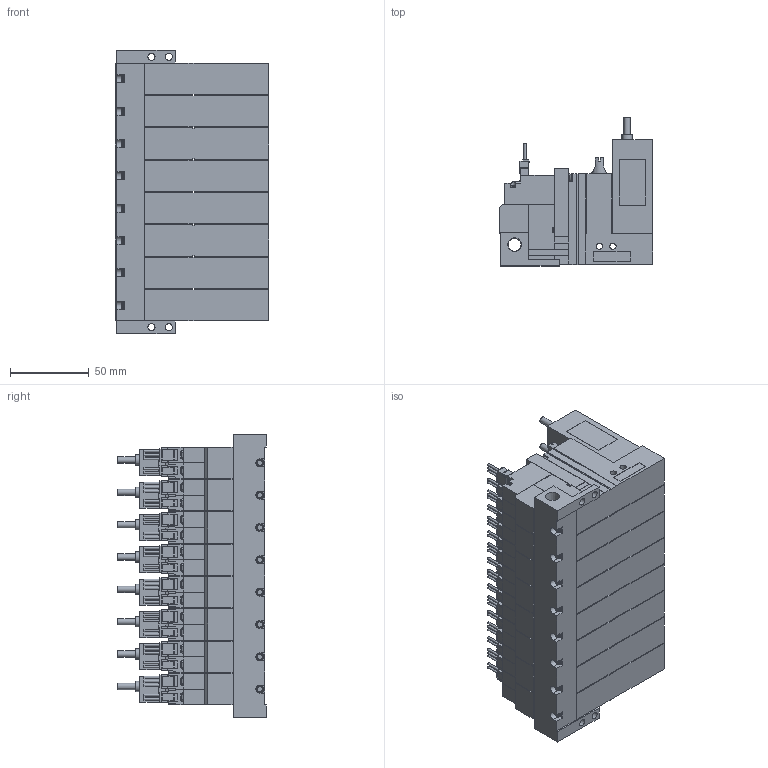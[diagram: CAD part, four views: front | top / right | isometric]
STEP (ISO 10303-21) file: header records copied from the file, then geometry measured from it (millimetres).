
FILE_DESCRIPTION(('STEP AP203'),'1');
FILE_NAME('VG_VGPLC5WLR808.stp','2025-02-25T05:25:42',(' '),(' '),'Spatial InterOp 3D',' ',' ');
FILE_SCHEMA(('CONFIG_CONTROL_DESIGN'));
Length unit declared in the file: millimetre
Products named in the file (5): BMC22M※※※※VG_VGPLC5WLR808; Solenoid valve W; Pressure sensor VGLC; Unit LC; Base MR80R
Assembly tree (25 placements, depth 2):
  BMC22M※※※※VG_VGPLC5WLR808
    Solenoid valve W  x8
    Pressure sensor VGLC  x8
    Unit LC  x8
    Base MR80R
Bounding box: 97.6 x 94 x 179.5 mm (x, y, z)
Volume: 900073.8 mm3; surface area: 230470.1 mm2
Topology: 25 solids, 25 shells, 3189 faces, 8531 edges, 5624 vertices
Faces by surface type: plane 2702, cylinder 389, cone 58, torus 40
Full cylindrical faces by diameter (mm): 1.4 x40, 2.5 x24, 3 x32, 3.5 x32, 3.6 x8, 4 x48, 4.134 x8, 4.5 x4, 5.2 x8, 6 x8, 6.5 x8, 6.6 x8, 8.279 x1
Entity records: 16283 total; most frequent: CARTESIAN_POINT 3182, DIRECTION 2605, ORIENTED_EDGE 2482, EDGE_CURVE 1241, LINE 973, VECTOR 973, VERTEX_POINT 877, AXIS2_PLACEMENT_3D 816
